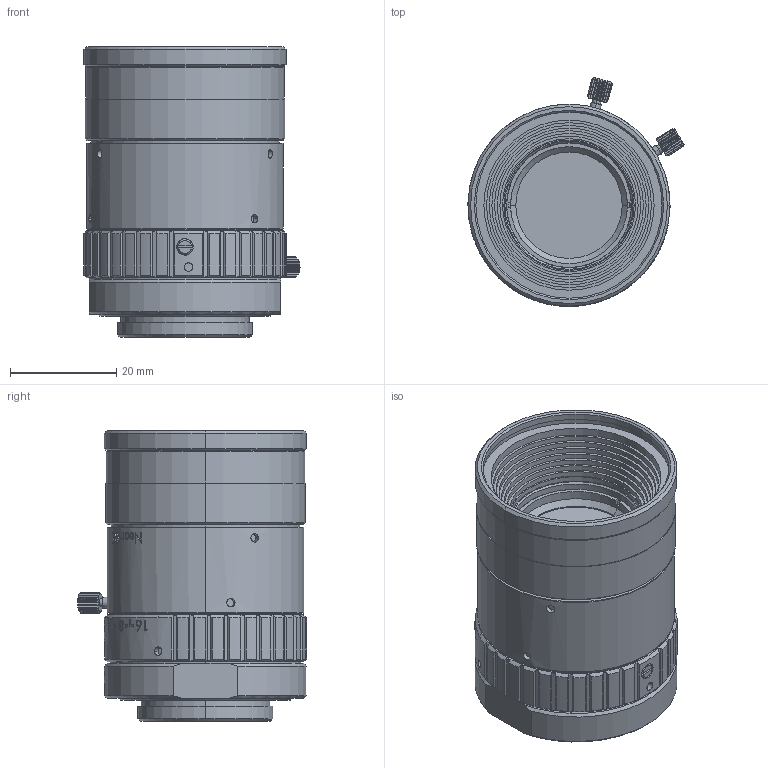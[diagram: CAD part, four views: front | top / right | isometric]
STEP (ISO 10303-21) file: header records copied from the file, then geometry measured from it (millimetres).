
FILE_DESCRIPTION (( 'STEP AP203' ), '1' );
FILE_NAME ('3d_ml-mc2518xr-18c_a001.STEP', '2019-04-08T01:49:26', ( '' ), ( '' ), 'SwSTEP 2.0', 'SolidWorks 2014', '' );
FILE_SCHEMA (( 'CONFIG_CONTROL_DESIGN' ));
Length unit declared in the file: millimetre
Products named in the file (1): 3d_ml-mc2518xr-18c_a001
Bounding box: 40.64 x 43.06 x 54.65 mm (x, y, z)
Volume: 47108.4 mm3; surface area: 11976.5 mm2
Topology: 1 solids, 2 shells, 1005 faces, 2668 edges, 1762 vertices
Faces by surface type: cylinder 361, plane 346, bspline 232, cone 66
Entity records: 52374 total; most frequent: CARTESIAN_POINT 30295, ORIENTED_EDGE 5336, DIRECTION 3333, EDGE_CURVE 2668, VERTEX_POINT 1762, B_SPLINE_CURVE_WITH_KNOTS 1397, AXIS2_PLACEMENT_3D 1288, EDGE_LOOP 1102
